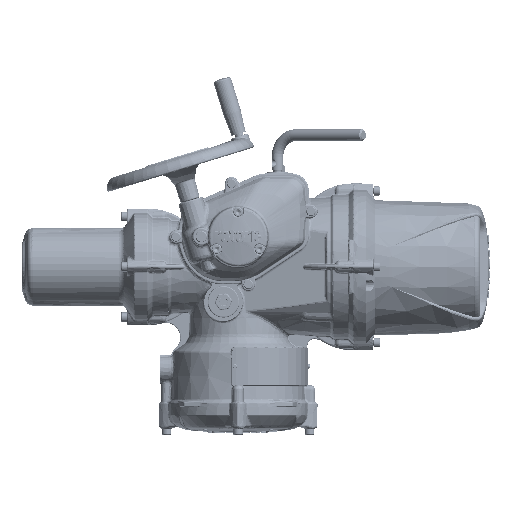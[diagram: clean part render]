
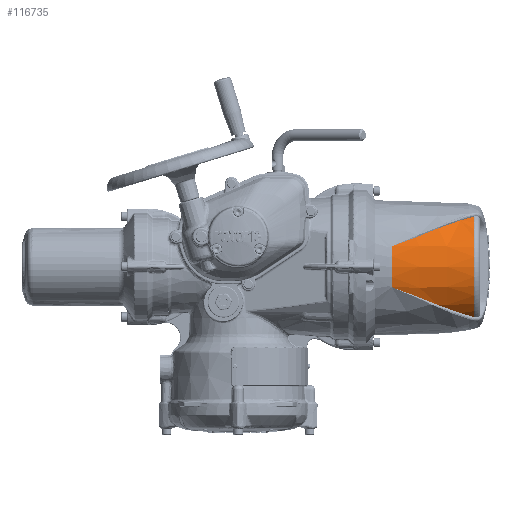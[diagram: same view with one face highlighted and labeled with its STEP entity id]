
A CAD part, top view. The second image highlights one B-rep face of the part: STEP entity #116735.
In plain terms, the highlighted conical face has half-angle 4.254 degrees and reference radius 90.612 mm.
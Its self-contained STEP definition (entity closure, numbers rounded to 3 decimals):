
#2994=CONICAL_SURFACE('',#123897,90.612,0.074);
#13742=B_SPLINE_CURVE_WITH_KNOTS('',3,(#241703,#241704,#241705,#241706,
#241707,#241708,#241709),.UNSPECIFIED.,.F.,.F.,(4,1,1,1,4),(0.,0.026,
0.053,0.079,0.106),.UNSPECIFIED.);
#13743=B_SPLINE_CURVE_WITH_KNOTS('',3,(#241711,#241712,#241713,#241714,
#241715,#241716,#241717),.UNSPECIFIED.,.F.,.F.,(4,1,1,1,4),(0.,0.25,0.5,
0.75,1.),.QUASI_UNIFORM_KNOTS.);
#13744=B_SPLINE_CURVE_WITH_KNOTS('',3,(#241719,#241720,#241721,#241722,
#241723,#241724,#241725),.UNSPECIFIED.,.F.,.F.,(4,1,1,1,4),(0.,0.25,0.5,
0.75,1.),.QUASI_UNIFORM_KNOTS.);
#13745=B_SPLINE_CURVE_WITH_KNOTS('',3,(#241729,#241730,#241731,#241732,
#241733,#241734,#241735),.UNSPECIFIED.,.F.,.F.,(4,1,1,1,4),(0.,0.25,0.5,
0.75,1.),.QUASI_UNIFORM_KNOTS.);
#13746=B_SPLINE_CURVE_WITH_KNOTS('',3,(#241737,#241738,#241739,#241740,
#241741,#241742,#241743),.UNSPECIFIED.,.F.,.F.,(4,1,1,1,4),(0.,0.25,0.5,
0.75,1.),.QUASI_UNIFORM_KNOTS.);
#13747=B_SPLINE_CURVE_WITH_KNOTS('',3,(#241745,#241746,#241747,#241748,
#241749,#241750,#241751),.UNSPECIFIED.,.F.,.F.,(4,1,1,1,4),(0.,0.026,
0.053,0.079,0.106),.UNSPECIFIED.);
#31577=ORIENTED_EDGE('',*,*,#48661,.T.);
#31578=ORIENTED_EDGE('',*,*,#48662,.T.);
#31579=ORIENTED_EDGE('',*,*,#48663,.T.);
#31580=ORIENTED_EDGE('',*,*,#48664,.T.);
#31581=ORIENTED_EDGE('',*,*,#48665,.T.);
#31582=ORIENTED_EDGE('',*,*,#48666,.T.);
#31583=ORIENTED_EDGE('',*,*,#48667,.T.);
#31584=ORIENTED_EDGE('',*,*,#48668,.T.);
#48661=EDGE_CURVE('',#57932,#57933,#63993,.F.);
#48662=EDGE_CURVE('',#57933,#57934,#13742,.T.);
#48663=EDGE_CURVE('',#57934,#57935,#13743,.T.);
#48664=EDGE_CURVE('',#57935,#57936,#13744,.T.);
#48665=EDGE_CURVE('',#57936,#57937,#63994,.F.);
#48666=EDGE_CURVE('',#57937,#57938,#13745,.T.);
#48667=EDGE_CURVE('',#57938,#57939,#13746,.T.);
#48668=EDGE_CURVE('',#57939,#57932,#13747,.T.);
#57932=VERTEX_POINT('',#241701);
#57933=VERTEX_POINT('',#241702);
#57934=VERTEX_POINT('',#241710);
#57935=VERTEX_POINT('',#241718);
#57936=VERTEX_POINT('',#241726);
#57937=VERTEX_POINT('',#241728);
#57938=VERTEX_POINT('',#241736);
#57939=VERTEX_POINT('',#241744);
#63993=CIRCLE('',#123898,90.463);
#63994=CIRCLE('',#123899,82.051);
#69015=EDGE_LOOP('',(#31577,#31578,#31579,#31580,#31581,#31582,#31583,#31584));
#75043=FACE_BOUND('',#69015,.T.);
#116735=ADVANCED_FACE('',(#75043),#2994,.T.);
#123897=AXIS2_PLACEMENT_3D('',#241699,#138359,#138360);
#123898=AXIS2_PLACEMENT_3D('',#241700,#138361,#138362);
#123899=AXIS2_PLACEMENT_3D('',#241727,#138363,#138364);
#138359=DIRECTION('',(0.,0.,-1.));
#138360=DIRECTION('',(-1.,0.,0.));
#138361=DIRECTION('',(0.,0.,-1.));
#138362=DIRECTION('',(-1.,0.,0.));
#138363=DIRECTION('',(0.,0.,1.));
#138364=DIRECTION('',(1.,0.,0.));
#241699=CARTESIAN_POINT('',(0.,0.,45.));
#241700=CARTESIAN_POINT('',(0.,0.,47.011));
#241701=CARTESIAN_POINT('',(28.102,86.03,46.997));
#241702=CARTESIAN_POINT('',(-28.102,86.03,46.997));
#241703=CARTESIAN_POINT('',(-28.053,86.003,47.011));
#241704=CARTESIAN_POINT('',(-30.71,84.489,55.283));
#241705=CARTESIAN_POINT('',(-36.798,80.913,71.448));
#241706=CARTESIAN_POINT('',(-46.529,73.736,94.977));
#241707=CARTESIAN_POINT('',(-55.736,64.846,117.994));
#241708=CARTESIAN_POINT('',(-61.111,57.872,133.224));
#241709=CARTESIAN_POINT('',(-63.54,54.148,140.843));
#241710=CARTESIAN_POINT('',(-63.54,54.148,140.843));
#241711=CARTESIAN_POINT('',(-63.54,54.148,140.843));
#241712=CARTESIAN_POINT('',(-64.052,53.363,142.449));
#241713=CARTESIAN_POINT('',(-65.052,51.775,145.659));
#241714=CARTESIAN_POINT('',(-66.476,49.335,150.471));
#241715=CARTESIAN_POINT('',(-67.823,46.839,155.282));
#241716=CARTESIAN_POINT('',(-68.668,45.139,158.489));
#241717=CARTESIAN_POINT('',(-69.077,44.28,160.093));
#241718=CARTESIAN_POINT('',(-68.702,45.058,158.635));
#241719=CARTESIAN_POINT('',(-63.54,54.148,140.843));
#241720=CARTESIAN_POINT('',(-64.052,53.363,142.449));
#241721=CARTESIAN_POINT('',(-65.052,51.775,145.659));
#241722=CARTESIAN_POINT('',(-66.476,49.335,150.471));
#241723=CARTESIAN_POINT('',(-67.823,46.839,155.282));
#241724=CARTESIAN_POINT('',(-68.668,45.139,158.489));
#241725=CARTESIAN_POINT('',(-69.077,44.28,160.093));
#241726=CARTESIAN_POINT('',(-69.077,44.28,160.093));
#241727=CARTESIAN_POINT('',(0.,0.,160.093));
#241728=CARTESIAN_POINT('',(69.077,44.28,160.093));
#241729=CARTESIAN_POINT('',(69.077,44.28,160.093));
#241730=CARTESIAN_POINT('',(68.669,45.138,158.491));
#241731=CARTESIAN_POINT('',(67.824,46.837,155.285));
#241732=CARTESIAN_POINT('',(66.477,49.333,150.475));
#241733=CARTESIAN_POINT('',(65.053,51.773,145.662));
#241734=CARTESIAN_POINT('',(64.052,53.363,142.45));
#241735=CARTESIAN_POINT('',(63.54,54.148,140.843));
#241736=CARTESIAN_POINT('',(68.702,45.058,158.635));
#241737=CARTESIAN_POINT('',(69.077,44.28,160.093));
#241738=CARTESIAN_POINT('',(68.669,45.138,158.491));
#241739=CARTESIAN_POINT('',(67.824,46.837,155.285));
#241740=CARTESIAN_POINT('',(66.477,49.333,150.475));
#241741=CARTESIAN_POINT('',(65.053,51.773,145.662));
#241742=CARTESIAN_POINT('',(64.052,53.363,142.45));
#241743=CARTESIAN_POINT('',(63.54,54.148,140.843));
#241744=CARTESIAN_POINT('',(63.54,54.148,140.843));
#241745=CARTESIAN_POINT('',(63.54,54.148,140.843));
#241746=CARTESIAN_POINT('',(61.115,57.866,133.236));
#241747=CARTESIAN_POINT('',(55.736,64.85,117.989));
#241748=CARTESIAN_POINT('',(46.491,73.769,94.884));
#241749=CARTESIAN_POINT('',(36.775,80.926,71.389));
#241750=CARTESIAN_POINT('',(30.709,84.49,55.28));
#241751=CARTESIAN_POINT('',(28.053,86.003,47.011));
